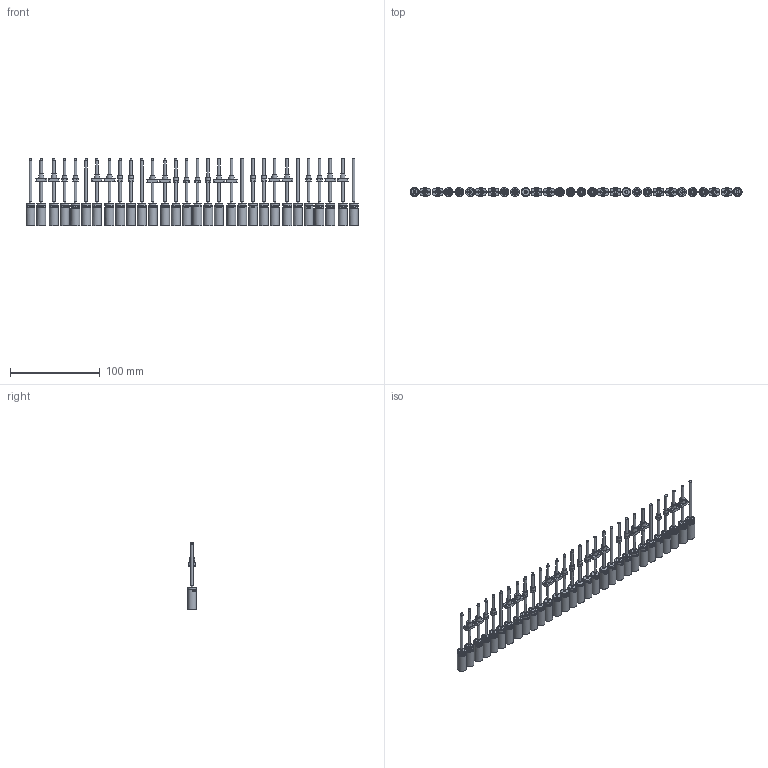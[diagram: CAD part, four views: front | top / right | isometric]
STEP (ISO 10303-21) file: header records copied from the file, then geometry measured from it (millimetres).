
FILE_DESCRIPTION(/* description */ (''),/* implementation_level */ '2;1');
FILE_NAME(/* name */ '10L-5stage_SL_standard_KWNx_KWS1_KFx.stp',/* time_stamp */ '2024-02-27T15:18:45+01:00',/* author */ ('DR. FRITZ FAULHABER GmbH & Co. KG'),/* organization */ ('DR. FRITZ FAULHABER GmbH & Co. KG'),/* preprocessor_version */ 'ST-DEVELOPER v19.3',/* originating_system */ 'SIEMENS PLM Software NX2212.4000',/* authorisation */ '');
FILE_SCHEMA (('AUTOMOTIVE_DESIGN { 1 0 10303 214 3 1 1 1 }'));
Length unit declared in the file: millimetre
Products named in the file (1): C_objects
Bounding box: 370 x 10 x 75.4 mm (x, y, z)
Volume: 70747.4 mm3; surface area: 49579.9 mm2
Topology: 30 solids, 30 shells, 3824 faces, 9409 edges, 6279 vertices
Faces by surface type: plane 2148, bspline 885, cylinder 741, cone 50
Full cylindrical faces by diameter (mm): 0.95 x40, 1.8 x24, 2 x15, 2.2 x30, 3 x54, 3.12 x30, 3.52 x30, 4.959 x30, 5 x12, 6 x42, 7 x20, 8.5 x10, 9.2 x10, 9.8 x30, 10 x70
Entity records: 177762 total; most frequent: CARTESIAN_POINT 80528, ORIENTED_EDGE 17548, DIRECTION 11833, EDGE_CURVE 8774, VERTEX_POINT 6146, EDGE_LOOP 5008, AXIS2_PLACEMENT_3D 4888, B_SPLINE_CURVE_WITH_KNOTS 4770
